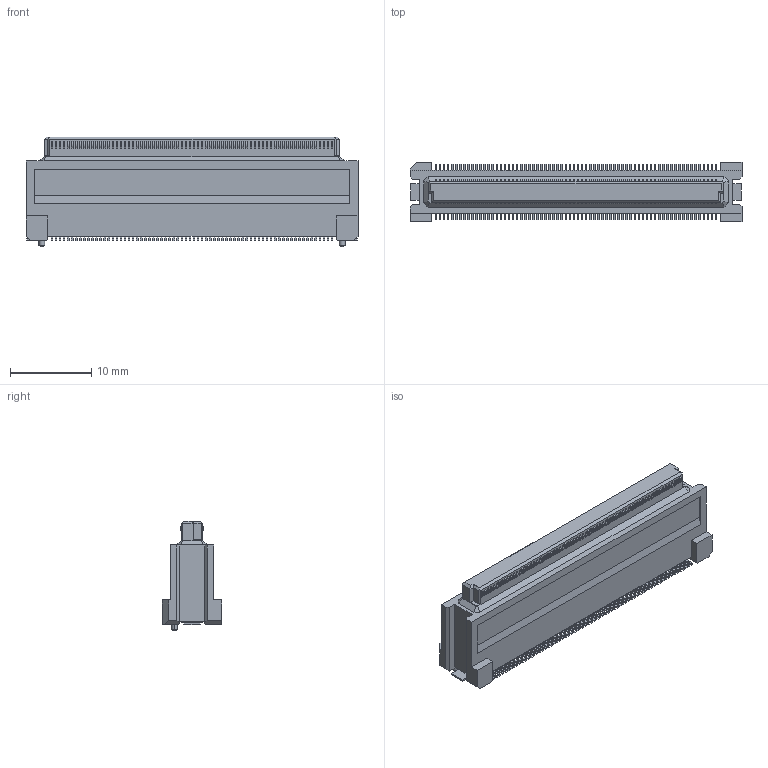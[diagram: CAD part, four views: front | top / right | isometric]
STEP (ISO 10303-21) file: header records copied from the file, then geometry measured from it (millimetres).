
FILE_DESCRIPTION(('CoCreate Modeling STEP Export'),'2;1');
FILE_NAME('DY11-140FS-4.stp','2017-09-08T10:57:31',(''),(''),'CoCreate Modeling STEP processor for AP214 (Solid Model)','CoCreate Modeling 17.0B 09-Oct-2010 (C) Parametric Technology GmbH','');
FILE_SCHEMA(('AUTOMOTIVE_DESIGN { 1 0 10303 214 1 1 1 1 }'));
Products named in the file (2): DY11-140FS-4
Assembly tree (1 placements, depth 2):
  DY11-140FS-4
    DY11-140FS-4
Bounding box: 40.9 x 7.3 x 13.5 mm (x, y, z)
Volume: 2104.9 mm3; surface area: 1850.4 mm2
Topology: 1 solids, 1 shells, 1980 faces, 5453 edges, 3622 vertices
Faces by surface type: plane 1398, cylinder 570, bspline 8, cone 4
Entity records: 62573 total; most frequent: CARTESIAN_POINT 12082, ORIENTED_EDGE 10906, DIRECTION 9955, EDGE_CURVE 5453, VECTOR 4285, LINE 4285, VERTEX_POINT 3622, AXIS2_PLACEMENT_3D 2835
